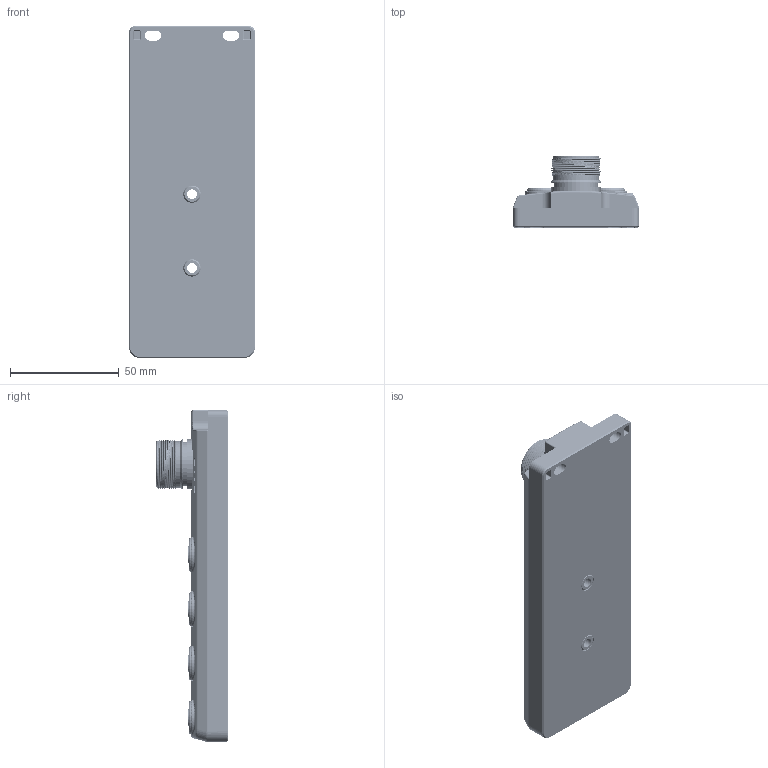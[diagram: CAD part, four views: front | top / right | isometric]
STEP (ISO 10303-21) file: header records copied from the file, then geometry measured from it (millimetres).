
FILE_DESCRIPTION((''),'2;1');
FILE_NAME('PRT0013','2022-06-01T',('PC'),(''),'PRO/ENGINEER BY PARAMETRIC TECHNOLOGY CORPORATION, 2009220','PRO/ENGINEER BY PARAMETRIC TECHNOLOGY CORPORATION, 2009220','');
FILE_SCHEMA(('CONFIG_CONTROL_DESIGN'));
Products named in the file (1): PRT0013
Bounding box: 58 x 33 x 153 mm (x, y, z)
Volume: 133771.9 mm3; surface area: 49976.1 mm2
Topology: 1 solids, 1 shells, 4309 faces, 11709 edges, 7581 vertices
Faces by surface type: plane 1701, cylinder 1478, bspline 488, cone 417, torus 159, extrusion 57, sphere 8, revolution 1
Full cylindrical faces by diameter (mm): 1.5 x8, 1.6 x4
Entity records: 195633 total; most frequent: CARTESIAN_POINT 89521, ORIENTED_EDGE 23402, DIRECTION 20580, EDGE_CURVE 11701, VERTEX_POINT 7581, AXIS2_PLACEMENT_3D 7487, VECTOR 5605, LINE 5548
